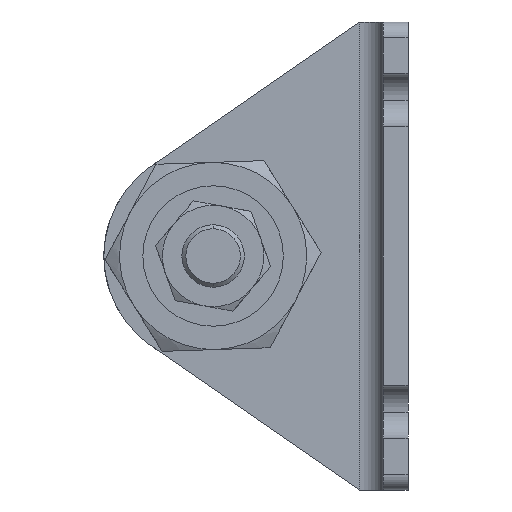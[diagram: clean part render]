
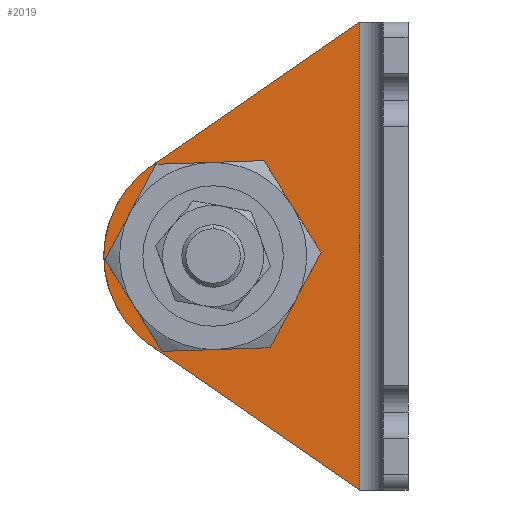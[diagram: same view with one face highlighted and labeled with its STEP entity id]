
A CAD part, left-side view. The second image highlights one B-rep face of the part: STEP entity #2019.
In plain terms, the highlighted planar face has unit normal (-1, 0, 0) as drawn and (1, 0, 0) by its records, which use the part's own axes.
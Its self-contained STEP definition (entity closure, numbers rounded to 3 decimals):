
#26 = CARTESIAN_POINT ( 'NONE',  ( 3.2, 15.5, -30. ) ) ;
#133 = DIRECTION ( 'NONE',  ( 1., 0., 0. ) ) ;
#203 = FACE_BOUND ( 'NONE', #3762, .T. ) ;
#214 = EDGE_LOOP ( 'NONE', ( #1327, #1451, #2747, #662, #1228 ) ) ;
#249 = DIRECTION ( 'NONE',  ( 1., 0., 0. ) ) ;
#289 = CARTESIAN_POINT ( 'NONE',  ( 3.2, 6.2, -60. ) ) ;
#296 = PLANE ( 'NONE',  #3107 ) ;
#362 = ORIENTED_EDGE ( 'NONE', *, *, #2464, .F. ) ;
#485 = CIRCLE ( 'NONE', #3681, 9.5 ) ;
#499 = VERTEX_POINT ( 'NONE', #2383 ) ;
#502 = EDGE_CURVE ( 'NONE', #1341, #998, #1666, .T. ) ;
#541 = CARTESIAN_POINT ( 'NONE',  ( 3.2, 6.2, 0. ) ) ;
#599 = VERTEX_POINT ( 'NONE', #3663 ) ;
#662 = ORIENTED_EDGE ( 'NONE', *, *, #2492, .F. ) ;
#827 = AXIS2_PLACEMENT_3D ( 'NONE', #2740, #2461, #1806 ) ;
#853 = DIRECTION ( 'NONE',  ( 0., 1., 0. ) ) ;
#915 = DIRECTION ( 'NONE',  ( 0., 0., -1. ) ) ;
#998 = VERTEX_POINT ( 'NONE', #3854 ) ;
#1127 = FACE_OUTER_BOUND ( 'NONE', #214, .T. ) ;
#1140 = DIRECTION ( 'NONE',  ( 0., 0.823, -0.568 ) ) ;
#1172 = VECTOR ( 'NONE', #1140, 1000. ) ;
#1221 = DIRECTION ( 'NONE',  ( 0., 1., 0. ) ) ;
#1228 = ORIENTED_EDGE ( 'NONE', *, *, #3912, .T. ) ;
#1234 = DIRECTION ( 'NONE',  ( 0., 1., 0. ) ) ;
#1327 = ORIENTED_EDGE ( 'NONE', *, *, #2320, .T. ) ;
#1341 = VERTEX_POINT ( 'NONE', #2800 ) ;
#1451 = ORIENTED_EDGE ( 'NONE', *, *, #502, .T. ) ;
#1666 = CIRCLE ( 'NONE', #1943, 14. ) ;
#1705 = CARTESIAN_POINT ( 'NONE',  ( 3.2, 4.169, -61.403 ) ) ;
#1805 = LINE ( 'NONE', #3684, #1172 ) ;
#1806 = DIRECTION ( 'NONE',  ( 0., 1., 0. ) ) ;
#1863 = DIRECTION ( 'NONE',  ( 1., 0., 0. ) ) ;
#1943 = AXIS2_PLACEMENT_3D ( 'NONE', #3204, #133, #853 ) ;
#1978 = ORIENTED_EDGE ( 'NONE', *, *, #3267, .F. ) ;
#2019 = ADVANCED_FACE ( 'NONE', ( #203, #1127 ), #296, .T. ) ;
#2074 = DIRECTION ( 'NONE',  ( 0., 0.823, 0.568 ) ) ;
#2320 = EDGE_CURVE ( 'NONE', #3329, #1341, #2877, .T. ) ;
#2383 = CARTESIAN_POINT ( 'NONE',  ( 3.2, 32.956, -18.481 ) ) ;
#2447 = DIRECTION ( 'NONE',  ( 0., 1., 0. ) ) ;
#2461 = DIRECTION ( 'NONE',  ( 1., 0., 0. ) ) ;
#2464 = EDGE_CURVE ( 'NONE', #599, #3383, #3743, .T. ) ;
#2492 = EDGE_CURVE ( 'NONE', #3225, #499, #1805, .T. ) ;
#2709 = AXIS2_PLACEMENT_3D ( 'NONE', #2760, #2977, #2447 ) ;
#2740 = CARTESIAN_POINT ( 'NONE',  ( 3.2, 25., -30. ) ) ;
#2747 = ORIENTED_EDGE ( 'NONE', *, *, #3957, .T. ) ;
#2760 = CARTESIAN_POINT ( 'NONE',  ( 3.2, 25., -30. ) ) ;
#2782 = CARTESIAN_POINT ( 'NONE',  ( 3.2, 25., -30. ) ) ;
#2797 = CARTESIAN_POINT ( 'NONE',  ( 3.2, 3.2, -60. ) ) ;
#2800 = CARTESIAN_POINT ( 'NONE',  ( 3.2, 32.956, -41.519 ) ) ;
#2812 = CARTESIAN_POINT ( 'NONE',  ( 3.2, 6.2, -60. ) ) ;
#2877 = LINE ( 'NONE', #1705, #2981 ) ;
#2977 = DIRECTION ( 'NONE',  ( 1., 0., 0. ) ) ;
#2981 = VECTOR ( 'NONE', #2074, 1000. ) ;
#3107 = AXIS2_PLACEMENT_3D ( 'NONE', #2797, #1863, #1234 ) ;
#3204 = CARTESIAN_POINT ( 'NONE',  ( 3.2, 25., -30. ) ) ;
#3225 = VERTEX_POINT ( 'NONE', #541 ) ;
#3267 = EDGE_CURVE ( 'NONE', #3383, #599, #485, .T. ) ;
#3329 = VERTEX_POINT ( 'NONE', #2812 ) ;
#3383 = VERTEX_POINT ( 'NONE', #26 ) ;
#3493 = VECTOR ( 'NONE', #915, 1000. ) ;
#3663 = CARTESIAN_POINT ( 'NONE',  ( 3.2, 34.5, -30. ) ) ;
#3681 = AXIS2_PLACEMENT_3D ( 'NONE', #2782, #249, #1221 ) ;
#3684 = CARTESIAN_POINT ( 'NONE',  ( 3.2, 32.226, -17.976 ) ) ;
#3743 = CIRCLE ( 'NONE', #2709, 9.5 ) ;
#3762 = EDGE_LOOP ( 'NONE', ( #362, #1978 ) ) ;
#3836 = CIRCLE ( 'NONE', #827, 14. ) ;
#3854 = CARTESIAN_POINT ( 'NONE',  ( 3.2, 39., -30. ) ) ;
#3912 = EDGE_CURVE ( 'NONE', #3225, #3329, #4019, .T. ) ;
#3957 = EDGE_CURVE ( 'NONE', #998, #499, #3836, .T. ) ;
#4019 = LINE ( 'NONE', #289, #3493 ) ;
